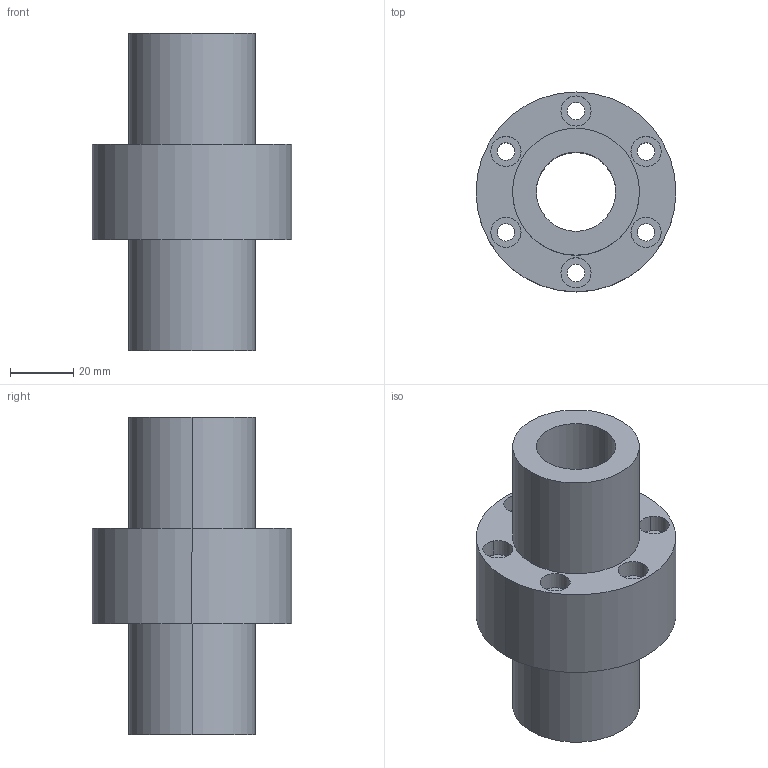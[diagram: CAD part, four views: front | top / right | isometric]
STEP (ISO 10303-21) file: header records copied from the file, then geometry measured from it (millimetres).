
FILE_DESCRIPTION((''),'2;1');
FILE_NAME('25-5T3','2008-04-03T',('yanyu'),(''),'PRO/ENGINEER BY PARAMETRIC TECHNOLOGY CORPORATION, 2005070','PRO/ENGINEER BY PARAMETRIC TECHNOLOGY CORPORATION, 2005070','');
FILE_SCHEMA(('CONFIG_CONTROL_DESIGN'));
Length unit declared in the file: millimetre
Products named in the file (1): 25-5T3
Bounding box: 63 x 63 x 100 mm (x, y, z)
Volume: 126563 mm3; surface area: 31080.6 mm2
Topology: 1 solids, 1 shells, 42 faces, 100 edges, 68 vertices
Faces by surface type: cylinder 32, plane 10
Entity records: 1330 total; most frequent: DIRECTION 252, CARTESIAN_POINT 210, ORIENTED_EDGE 200, AXIS2_PLACEMENT_3D 110, EDGE_CURVE 100, VERTEX_POINT 68, CIRCLE 68, EDGE_LOOP 64
